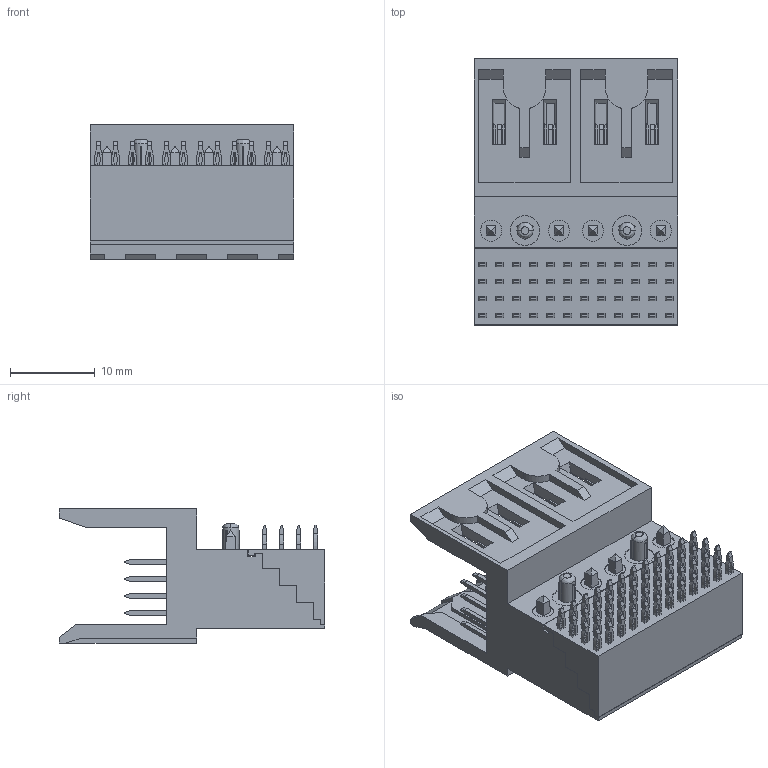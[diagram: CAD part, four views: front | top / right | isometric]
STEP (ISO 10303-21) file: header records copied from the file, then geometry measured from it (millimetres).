
FILE_DESCRIPTION (( 'STEP AP214' ), '1' );
FILE_NAME ('9111-4548A1C10PU.STEP', '2017-12-13T09:09:09', ( 'ADMIN' ), ( '' ), 'SwSTEP 2.0', 'SolidWorks 2011', '' );
FILE_SCHEMA (( 'AUTOMOTIVE_DESIGN' ));
Length unit declared in the file: millimetre
Products named in the file (7): 9111-4524housing2; 9111-451pin; 9111-452pin; 9111-453pin; 9111-454pin; 9111-4524housing; 9111-4548A1C10PU
Assembly tree (50 placements, depth 2):
  9111-4548A1C10PU
    9111-451pin  x12
    9111-453pin  x12
    9111-452pin  x12
    9111-454pin  x12
    9111-4524housing
    9111-4524housing2
Bounding box: 23.95 x 31.3 x 15.8 mm (x, y, z)
Volume: 4977.4 mm3; surface area: 6213.6 mm2
Topology: 100 solids, 100 shells, 1558 faces, 3990 edges, 2648 vertices
Faces by surface type: plane 1132, cylinder 422, bspline 4
Entity records: 14842 total; most frequent: CARTESIAN_POINT 2427, ORIENTED_EDGE 2238, DIRECTION 2211, EDGE_CURVE 1119, LINE 951, VECTOR 951, VERTEX_POINT 734, AXIS2_PLACEMENT_3D 630
